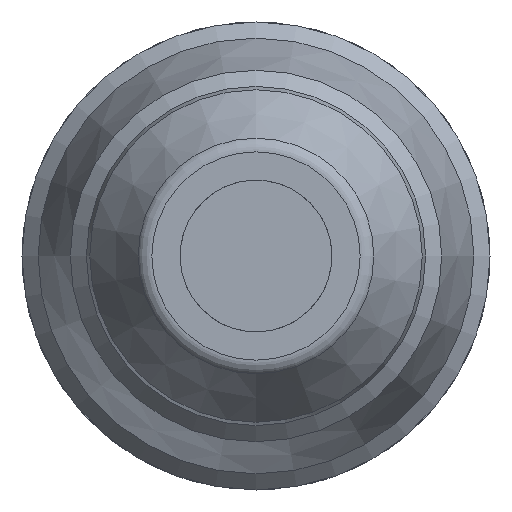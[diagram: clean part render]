
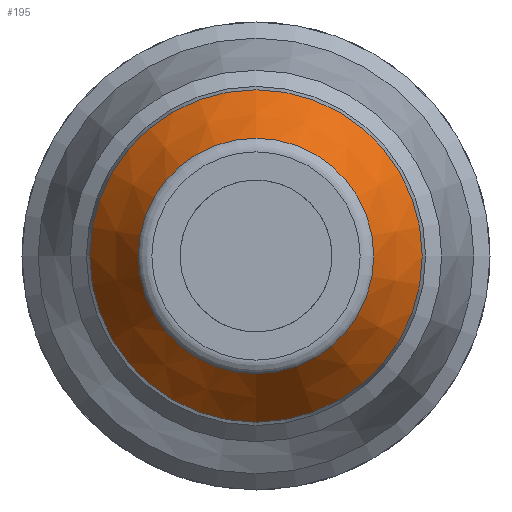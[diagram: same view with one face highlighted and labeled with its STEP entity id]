
A CAD part, front view. The second image highlights one B-rep face of the part: STEP entity #195.
In plain terms, the highlighted conical face has half-angle 32.4 degrees and reference radius 5.15 mm.
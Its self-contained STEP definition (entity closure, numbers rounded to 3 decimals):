
#195 = ADVANCED_FACE( '', ( #485, #486 ), #487, .T. );
#485 = FACE_OUTER_BOUND( '', #888, .T. );
#486 = FACE_BOUND( '', #889, .T. );
#487 = CONICAL_SURFACE( '', #890, 5.15, 0.565 );
#888 = EDGE_LOOP( '', ( #1391 ) );
#889 = EDGE_LOOP( '', ( #1392 ) );
#890 = AXIS2_PLACEMENT_3D( '', #1393, #1394, #1395 );
#1391 = ORIENTED_EDGE( '', *, *, #2270, .F. );
#1392 = ORIENTED_EDGE( '', *, *, #2264, .T. );
#1393 = CARTESIAN_POINT( '', ( 0., -21.496, 0. ) );
#1394 = DIRECTION( '', ( 0., 1., 0. ) );
#1395 = DIRECTION( '', ( 0., 0., -1. ) );
#2264 = EDGE_CURVE( '', #2662, #2662, #2663, .T. );
#2270 = EDGE_CURVE( '', #2672, #2672, #2673, .T. );
#2662 = VERTEX_POINT( '', #3441 );
#2663 = CIRCLE( '', #3442, 3.647 );
#2672 = VERTEX_POINT( '', #3451 );
#2673 = CIRCLE( '', #3452, 5.15 );
#3441 = CARTESIAN_POINT( '', ( 0., -23.864, 3.647 ) );
#3442 = AXIS2_PLACEMENT_3D( '', #4395, #4396, #4397 );
#3451 = CARTESIAN_POINT( '', ( 0., -21.496, -5.15 ) );
#3452 = AXIS2_PLACEMENT_3D( '', #4407, #4408, #4409 );
#4395 = CARTESIAN_POINT( '', ( 0., -23.864, 0. ) );
#4396 = DIRECTION( '', ( 0., 1., 0. ) );
#4397 = DIRECTION( '', ( 0., 0., 1. ) );
#4407 = CARTESIAN_POINT( '', ( 0., -21.496, 0. ) );
#4408 = DIRECTION( '', ( 0., 1., 0. ) );
#4409 = DIRECTION( '', ( 0., 0., -1. ) );
